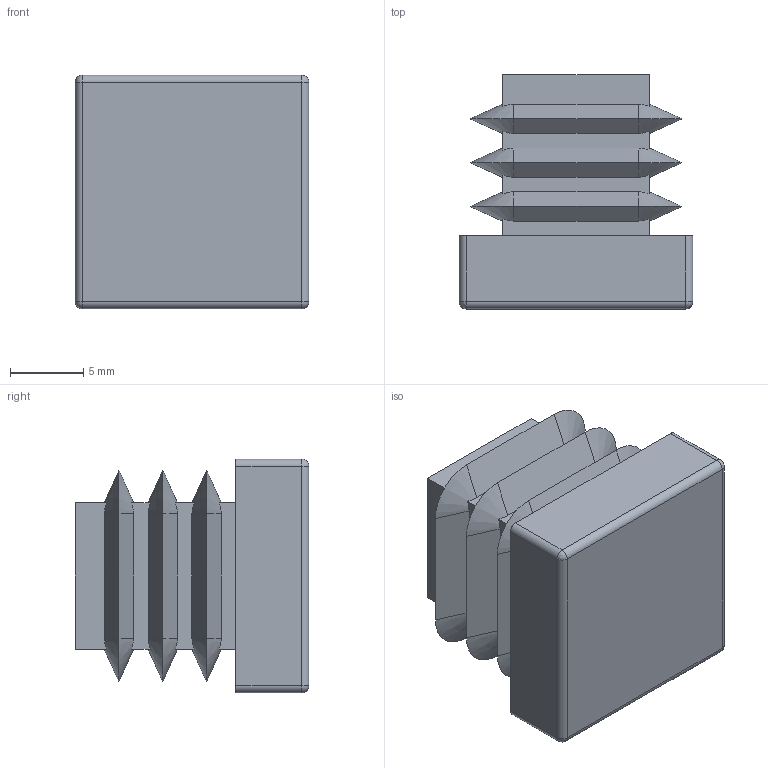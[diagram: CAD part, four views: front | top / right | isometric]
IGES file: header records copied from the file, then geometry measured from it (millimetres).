
Start section: SolidWorks IGES file using analytic representation for surfaces
Global section: file name: C:\HEMSIDA\cad\SLDPRT_2015\ifr\\ifr_16.igs; native system: SolidWorks 2015; preprocessor: SolidWorks 2015; author: Magnus; date: 150818.111751; units: millimetre
Bounding box: 16 x 16 x 16 mm (x, y, z)
Surface area: 2040.6 mm2 (no closed solid volume)
Topology: 0 solids, 0 shells, 88 faces, 592 edges, 588 vertices
Faces by surface type: bspline 52, revolution 36
